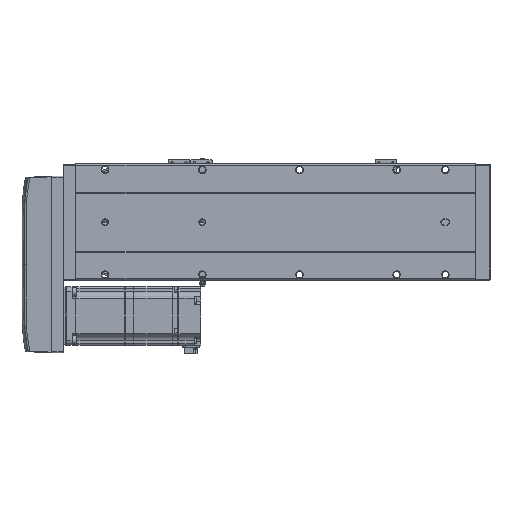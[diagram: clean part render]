
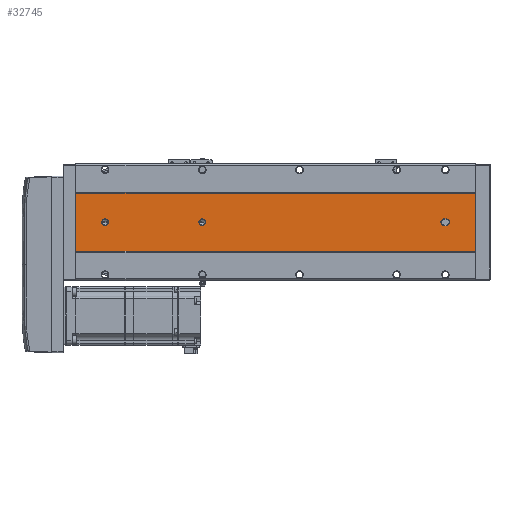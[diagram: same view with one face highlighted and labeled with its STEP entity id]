
A CAD part, front view. The second image highlights one B-rep face of the part: STEP entity #32745.
In plain terms, the highlighted planar face has unit normal (0, -1, 0).
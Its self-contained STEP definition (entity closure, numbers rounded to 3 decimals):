
#344 = DIRECTION ( 'NONE',  ( 0., 0., 1. ) ) ;
#372 = VECTOR ( 'NONE', #67852, 1000. ) ;
#601 = VECTOR ( 'NONE', #75275, 1000. ) ;
#1468 = VECTOR ( 'NONE', #66336, 1000. ) ;
#2261 = ORIENTED_EDGE ( 'NONE', *, *, #49119, .F. ) ;
#2858 = CARTESIAN_POINT ( 'NONE',  ( -39.892, -52.848, 281. ) ) ;
#3521 = DIRECTION ( 'NONE',  ( 0., 1., 0. ) ) ;
#3623 = DIRECTION ( 'NONE',  ( 0., 1., 0. ) ) ;
#4176 = FACE_OUTER_BOUND ( 'NONE', #62905, .T. ) ;
#4382 = CARTESIAN_POINT ( 'NONE',  ( -36.392, -52.848, 32. ) ) ;
#5126 = VERTEX_POINT ( 'NONE', #21749 ) ;
#5215 = AXIS2_PLACEMENT_3D ( 'NONE', #46189, #10297, #58199 ) ;
#6247 = AXIS2_PLACEMENT_3D ( 'NONE', #14355, #32185, #55936 ) ;
#6704 = AXIS2_PLACEMENT_3D ( 'NONE', #2858, #8355, #26781 ) ;
#7267 = VECTOR ( 'NONE', #24675, 1000. ) ;
#7950 = AXIS2_PLACEMENT_3D ( 'NONE', #63103, #3623, #9899 ) ;
#8355 = DIRECTION ( 'NONE',  ( 0., 1., 0. ) ) ;
#8508 = CARTESIAN_POINT ( 'NONE',  ( -39.892, -52.848, 30. ) ) ;
#8858 = CARTESIAN_POINT ( 'NONE',  ( -69.892, -52.848, 411. ) ) ;
#9320 = ORIENTED_EDGE ( 'NONE', *, *, #53241, .T. ) ;
#9553 = DIRECTION ( 'NONE',  ( 0., 0., 1. ) ) ;
#9899 = DIRECTION ( 'NONE',  ( 0., 0., 1. ) ) ;
#9918 = CARTESIAN_POINT ( 'NONE',  ( -69.892, -52.848, 0. ) ) ;
#9928 = CARTESIAN_POINT ( 'NONE',  ( -69.892, -52.848, 411. ) ) ;
#10297 = DIRECTION ( 'NONE',  ( 0., 1., 0. ) ) ;
#10373 = VERTEX_POINT ( 'NONE', #46828 ) ;
#10988 = EDGE_CURVE ( 'NONE', #63587, #64155, #76627, .T. ) ;
#12246 = CARTESIAN_POINT ( 'NONE',  ( -43.392, -52.848, 30. ) ) ;
#12550 = EDGE_CURVE ( 'NONE', #5126, #10373, #51955, .T. ) ;
#13221 = CIRCLE ( 'NONE', #26948, 3.5 ) ;
#14355 = CARTESIAN_POINT ( 'NONE',  ( -39.892, -52.848, 281. ) ) ;
#15156 = VERTEX_POINT ( 'NONE', #30234 ) ;
#17958 = VERTEX_POINT ( 'NONE', #12246 ) ;
#17980 = CIRCLE ( 'NONE', #6704, 3.5 ) ;
#18241 = CARTESIAN_POINT ( 'NONE',  ( -39.892, -52.848, 381. ) ) ;
#18666 = EDGE_CURVE ( 'NONE', #17958, #57517, #48429, .T. ) ;
#20600 = EDGE_CURVE ( 'NONE', #69917, #57215, #64181, .T. ) ;
#21749 = CARTESIAN_POINT ( 'NONE',  ( -69.892, -52.848, 411. ) ) ;
#22451 = EDGE_CURVE ( 'NONE', #57215, #17958, #13221, .T. ) ;
#23258 = LINE ( 'NONE', #30972, #7267 ) ;
#23464 = EDGE_CURVE ( 'NONE', #57517, #34955, #63805, .T. ) ;
#24201 = ORIENTED_EDGE ( 'NONE', *, *, #46321, .T. ) ;
#24334 = ORIENTED_EDGE ( 'NONE', *, *, #31289, .T. ) ;
#24621 = CARTESIAN_POINT ( 'NONE',  ( -39.892, -52.848, 277.5 ) ) ;
#24648 = VERTEX_POINT ( 'NONE', #24621 ) ;
#24675 = DIRECTION ( 'NONE',  ( 1., 0., 0. ) ) ;
#25991 = DIRECTION ( 'NONE',  ( 0., 0., 1. ) ) ;
#26734 = FACE_BOUND ( 'NONE', #43216, .T. ) ;
#26781 = DIRECTION ( 'NONE',  ( 0., 0., 1. ) ) ;
#26948 = AXIS2_PLACEMENT_3D ( 'NONE', #8508, #3521, #9553 ) ;
#29613 = EDGE_LOOP ( 'NONE', ( #71320, #34885 ) ) ;
#30234 = CARTESIAN_POINT ( 'NONE',  ( -39.892, -52.848, 284.5 ) ) ;
#30291 = DIRECTION ( 'NONE',  ( 0., 0., 1. ) ) ;
#30482 = FACE_BOUND ( 'NONE', #29613, .T. ) ;
#30972 = CARTESIAN_POINT ( 'NONE',  ( -69.892, -52.848, 0. ) ) ;
#31289 = EDGE_CURVE ( 'NONE', #57268, #67373, #23258, .T. ) ;
#31789 = AXIS2_PLACEMENT_3D ( 'NONE', #18241, #42018, #344 ) ;
#32185 = DIRECTION ( 'NONE',  ( 0., 1., 0. ) ) ;
#32745 = ADVANCED_FACE ( 'NONE', ( #42594, #26734, #30482, #4176 ), #43470, .F. ) ;
#32938 = EDGE_CURVE ( 'NONE', #64155, #63587, #33225, .T. ) ;
#33225 = CIRCLE ( 'NONE', #7950, 3.5 ) ;
#34327 = DIRECTION ( 'NONE',  ( 0., 0., -1. ) ) ;
#34824 = EDGE_CURVE ( 'NONE', #34955, #69917, #66008, .T. ) ;
#34885 = ORIENTED_EDGE ( 'NONE', *, *, #32938, .T. ) ;
#34955 = VERTEX_POINT ( 'NONE', #4382 ) ;
#36024 = CARTESIAN_POINT ( 'NONE',  ( -39.892, -52.848, 32. ) ) ;
#40891 = LINE ( 'NONE', #9928, #47410 ) ;
#41458 = CARTESIAN_POINT ( 'NONE',  ( -9.892, -52.848, 411. ) ) ;
#42018 = DIRECTION ( 'NONE',  ( 0., 1., 0. ) ) ;
#42383 = CARTESIAN_POINT ( 'NONE',  ( -43.392, -52.848, 32. ) ) ;
#42594 = FACE_BOUND ( 'NONE', #55508, .T. ) ;
#42784 = DIRECTION ( 'NONE',  ( 0., 1., 0. ) ) ;
#43216 = EDGE_LOOP ( 'NONE', ( #24201, #62763 ) ) ;
#43285 = ORIENTED_EDGE ( 'NONE', *, *, #20600, .T. ) ;
#43470 = PLANE ( 'NONE',  #55532 ) ;
#44446 = CARTESIAN_POINT ( 'NONE',  ( -36.392, -52.848, 30. ) ) ;
#44499 = DIRECTION ( 'NONE',  ( 0., 0., -1. ) ) ;
#46189 = CARTESIAN_POINT ( 'NONE',  ( -39.892, -52.848, 30. ) ) ;
#46217 = ORIENTED_EDGE ( 'NONE', *, *, #23464, .T. ) ;
#46321 = EDGE_CURVE ( 'NONE', #24648, #15156, #17980, .T. ) ;
#46828 = CARTESIAN_POINT ( 'NONE',  ( -9.892, -52.848, 411. ) ) ;
#47410 = VECTOR ( 'NONE', #34327, 1000. ) ;
#48429 = LINE ( 'NONE', #67724, #601 ) ;
#49119 = EDGE_CURVE ( 'NONE', #10373, #67373, #66231, .T. ) ;
#50007 = ORIENTED_EDGE ( 'NONE', *, *, #18666, .T. ) ;
#50031 = DIRECTION ( 'NONE',  ( 0., 1., 0. ) ) ;
#51070 = CARTESIAN_POINT ( 'NONE',  ( -39.892, -52.848, 26.5 ) ) ;
#51955 = LINE ( 'NONE', #8858, #372 ) ;
#53241 = EDGE_CURVE ( 'NONE', #5126, #57268, #40891, .T. ) ;
#55508 = EDGE_LOOP ( 'NONE', ( #62209, #43285, #56696, #50007, #46217 ) ) ;
#55532 = AXIS2_PLACEMENT_3D ( 'NONE', #61813, #50031, #25991 ) ;
#55936 = DIRECTION ( 'NONE',  ( 0., 0., 1. ) ) ;
#56696 = ORIENTED_EDGE ( 'NONE', *, *, #22451, .T. ) ;
#57215 = VERTEX_POINT ( 'NONE', #51070 ) ;
#57268 = VERTEX_POINT ( 'NONE', #9918 ) ;
#57517 = VERTEX_POINT ( 'NONE', #42383 ) ;
#58199 = DIRECTION ( 'NONE',  ( 0., 0., 1. ) ) ;
#61813 = CARTESIAN_POINT ( 'NONE',  ( -69.892, -52.848, 411. ) ) ;
#62209 = ORIENTED_EDGE ( 'NONE', *, *, #34824, .T. ) ;
#62763 = ORIENTED_EDGE ( 'NONE', *, *, #64032, .T. ) ;
#62905 = EDGE_LOOP ( 'NONE', ( #24334, #2261, #67540, #9320 ) ) ;
#63103 = CARTESIAN_POINT ( 'NONE',  ( -39.892, -52.848, 381. ) ) ;
#63587 = VERTEX_POINT ( 'NONE', #72632 ) ;
#63805 = CIRCLE ( 'NONE', #65590, 3.5 ) ;
#64032 = EDGE_CURVE ( 'NONE', #15156, #24648, #68827, .T. ) ;
#64155 = VERTEX_POINT ( 'NONE', #75352 ) ;
#64181 = CIRCLE ( 'NONE', #5215, 3.5 ) ;
#65590 = AXIS2_PLACEMENT_3D ( 'NONE', #36024, #42784, #30291 ) ;
#66008 = LINE ( 'NONE', #74390, #67814 ) ;
#66231 = LINE ( 'NONE', #41458, #1468 ) ;
#66336 = DIRECTION ( 'NONE',  ( 0., 0., -1. ) ) ;
#67373 = VERTEX_POINT ( 'NONE', #70519 ) ;
#67540 = ORIENTED_EDGE ( 'NONE', *, *, #12550, .F. ) ;
#67724 = CARTESIAN_POINT ( 'NONE',  ( -43.392, -52.848, 411. ) ) ;
#67814 = VECTOR ( 'NONE', #44499, 1000. ) ;
#67852 = DIRECTION ( 'NONE',  ( 1., 0., 0. ) ) ;
#68827 = CIRCLE ( 'NONE', #6247, 3.5 ) ;
#69917 = VERTEX_POINT ( 'NONE', #44446 ) ;
#70519 = CARTESIAN_POINT ( 'NONE',  ( -9.892, -52.848, 0. ) ) ;
#71320 = ORIENTED_EDGE ( 'NONE', *, *, #10988, .T. ) ;
#72632 = CARTESIAN_POINT ( 'NONE',  ( -39.892, -52.848, 377.5 ) ) ;
#74390 = CARTESIAN_POINT ( 'NONE',  ( -36.392, -52.848, 411. ) ) ;
#75275 = DIRECTION ( 'NONE',  ( 0., 0., 1. ) ) ;
#75352 = CARTESIAN_POINT ( 'NONE',  ( -39.892, -52.848, 384.5 ) ) ;
#76627 = CIRCLE ( 'NONE', #31789, 3.5 ) ;
